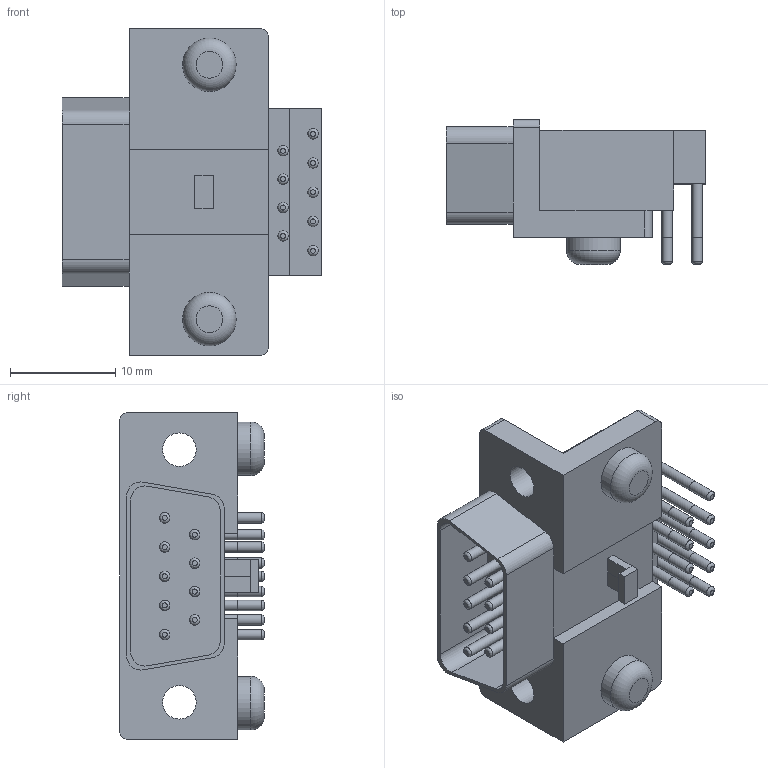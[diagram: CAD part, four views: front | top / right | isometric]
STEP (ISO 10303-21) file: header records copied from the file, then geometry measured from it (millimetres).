
FILE_DESCRIPTION(('FreeCAD Model'),'2;1');
FILE_NAME('Schematics/CV.3dshapes/DE9_Connector.stp','2020-09-23T23:10:26',('Author'),(''), 'Open CASCADE STEP processor 7.3','FreeCAD','Unknown');
FILE_SCHEMA(('AUTOMOTIVE_DESIGN { 1 0 10303 214 1 1 1 1 }'));
Length unit declared in the file: millimetre
Products named in the file (6): DE9_Connector; Shell001; Lower_Pins; Array; Upper_Pins; Array001
Assembly tree (5 placements, depth 2):
  DE9_Connector
    Shell001
    Lower_Pins
    Array
    Upper_Pins
    Array001
Bounding box: 24.64 x 13.72 x 30.99 mm (x, y, z)
Volume: 3796.6 mm3; surface area: 3786.5 mm2
Topology: 12 solids, 12 shells, 164 faces, 328 edges, 192 vertices
Faces by surface type: plane 69, cylinder 60, revolution 22, torus 13
Full cylindrical faces by diameter (mm): 0.991 x44, 3.175 x2, 5.08 x2
Entity records: 8843 total; most frequent: CARTESIAN_POINT 1530, DIRECTION 1454, LINE 773, VECTOR 773, ORIENTED_EDGE 656, PCURVE 656, DEFINITIONAL_REPRESENTATION 656, EDGE_CURVE 328
